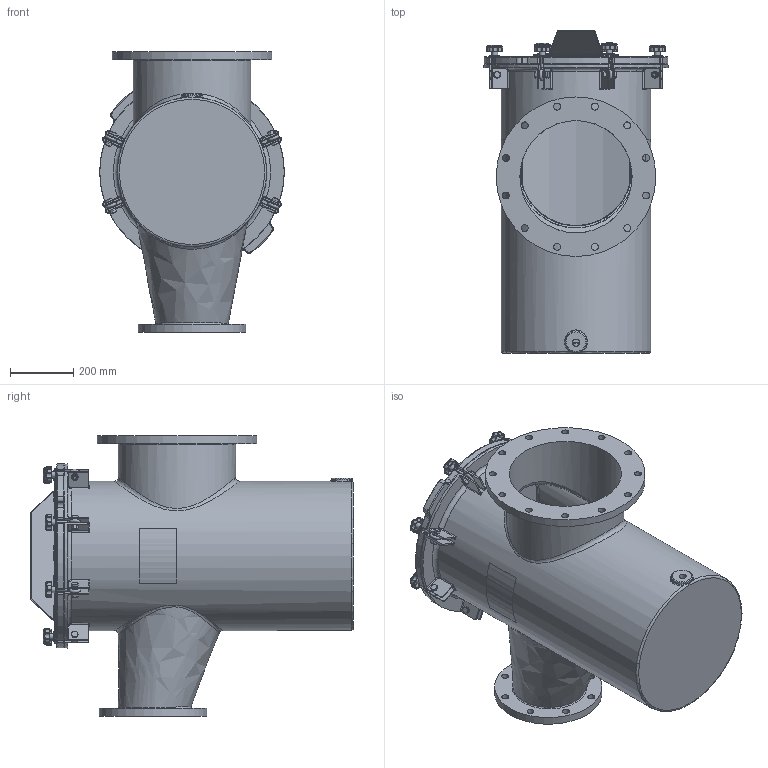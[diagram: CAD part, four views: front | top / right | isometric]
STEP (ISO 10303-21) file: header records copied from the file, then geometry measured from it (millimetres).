
FILE_DESCRIPTION(/* description */ ('350MM X 200MM FIBERGLASS STRAINER BODY'),/* implementation_level */ '2;1');
FILE_NAME(/* name */ 'E:\New folder (7)\Ready for delivery - Do not Disturb -Updated with metric Flange\Workspace\FG Reducing Strainer\Guardian FG Reducing H&L Strainer (Metric)\STRAINER H&L 350MM X 200MM.step',/* time_stamp */ '2016-10-19T04:15:59+06:00',/* author */ ('20076253'),/* organization */ (''),/* preprocessor_version */ 'ST-DEVELOPER v16.1',/* originating_system */ 'Autodesk Inventor 2016',/* authorisation */ '');
FILE_SCHEMA (('AUTOMOTIVE_DESIGN { 1 0 10303 214 3 1 1 }'));
Length unit declared in the file: inch
Products named in the file (24): NBFGBODY14X08MM; 150NBCVR18R2; 150NBGSK18R1; Perforated Basket 18in; Bride (Ring) 18in; Baffle 18in; Handle 18in; Bottom Strainer 18in; NBBSK14T316; BRACESTRCVR18_Welds; BRACE (BASE) FOR 18 BODY; BRACE (PROJ) FOR 18 BODY; Bumper; BRACESTRCVR18; Nut- 1_2  UNC; Bolt-1_2 x 1 1_2  UNC; EyeBolt; Washer; Knob M10; Securing Assembly For FG  with Brace; Securing Assembly For FG without Brace; Label for 18.625 inch (Right); Label for 18.625 inch (Left); STRAINER H&L 350MM X 200MM
Assembly tree (39 placements, depth 3):
  STRAINER H&L 350MM X 200MM
    NBFGBODY14X08MM
    150NBCVR18R2
    150NBGSK18R1
    NBBSK14T316
      Perforated Basket 18in
      Bride (Ring) 18in
      Baffle 18in
      Handle 18in
      Bottom Strainer 18in
    BRACESTRCVR18
      BRACESTRCVR18_Welds
      BRACE (BASE) FOR 18 BODY
      BRACE (PROJ) FOR 18 BODY
      Bumper  x6
    Securing Assembly For FG  with Brace  x2
      Nut- 1_2  UNC
      Bolt-1_2 x 1 1_2  UNC
      EyeBolt
      Washer
      Knob M10
    Securing Assembly For FG without Brace  x6
      Nut- 1_2  UNC
      Bolt-1_2 x 1 1_2  UNC
      EyeBolt
      Washer
      Knob M10
    Label for 18.625 inch (Right)
    Label for 18.625 inch (Left)
Bounding box: 584.2 x 1022.35 x 889 mm (x, y, z)
Volume: 28717299.8 mm3; surface area: 7341692.5 mm2
Topology: 67 solids, 67 shells, 1827 faces, 4172 edges, 2468 vertices
Faces by surface type: cylinder 668, plane 511, cone 184, torus 168, sphere 158, bspline 138
Full cylindrical faces by diameter (mm): 3.175 x11, 6.35 x2, 8.382 x8, 9.525 x16, 10.592 x8, 12.7 x8, 15.875 x16, 19 x16, 19.05 x8, 22.098 x20, 22.809 x1, 31.75 x8, 68.263 x1, 340.36 x1, 352.425 x2, 355.6 x2, 358.14 x1, 371.475 x1, 457.2 x3, 463.55 x1, 473.075 x1, 505.46 x1, 520.7 x1, 527.05 x1
Entity records: 35093 total; most frequent: CARTESIAN_POINT 11768, DIRECTION 4814, ORIENTED_EDGE 4418, EDGE_CURVE 2209, AXIS2_PLACEMENT_3D 1967, VERTEX_POINT 1385, EDGE_LOOP 1190, ADVANCED_FACE 977
